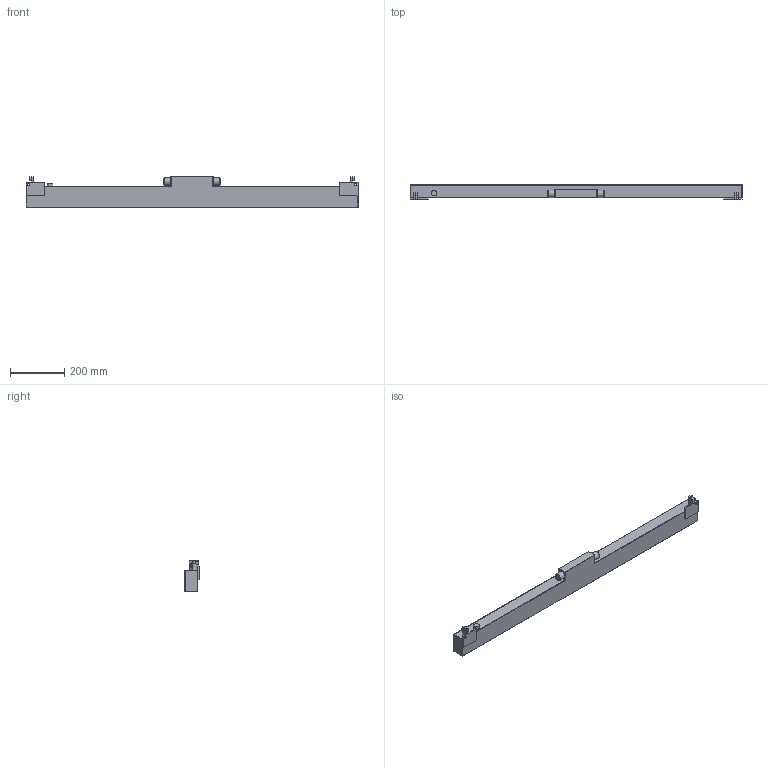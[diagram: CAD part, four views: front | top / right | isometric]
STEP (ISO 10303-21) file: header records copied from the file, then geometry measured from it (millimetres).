
FILE_DESCRIPTION(/* description */ ('Unknown'),/* implementation_level */ '2;1');
FILE_NAME(/* name */ 'EMINERE Remote 4 MC',/* time_stamp */ '2024-06-19T10:01:31+02:00',/* author */ ('Unknown'),/* organization */ ('Unknown'),/* preprocessor_version */ 'ST-DEVELOPER v19.4',/* originating_system */ 'Solid Edge',/* authorisation */ 'Unknown');
FILE_SCHEMA (('AUTOMOTIVE_DESIGN {1 0 10303 214 3 1 1}'));
Length unit declared in the file: millimetre
Products named in the file (1): EMINERE Remote 4 MC
Bounding box: 1219.2 x 52.4 x 113 mm (x, y, z)
Volume: 4652418.4 mm3; surface area: 335458.9 mm2
Topology: 1 solids, 1 shells, 88 faces, 221 edges, 134 vertices
Faces by surface type: plane 47, cylinder 29, torus 10, sphere 2
Full cylindrical faces by diameter (mm): 11 x4, 20 x1, 27 x2
Entity records: 2548 total; most frequent: DIRECTION 452, CARTESIAN_POINT 425, ORIENTED_EDGE 412, EDGE_CURVE 206, AXIS2_PLACEMENT_3D 157, LINE 138, VECTOR 138, VERTEX_POINT 130
